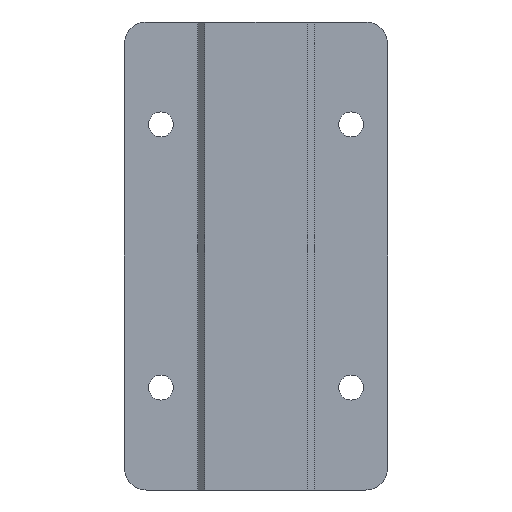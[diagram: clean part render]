
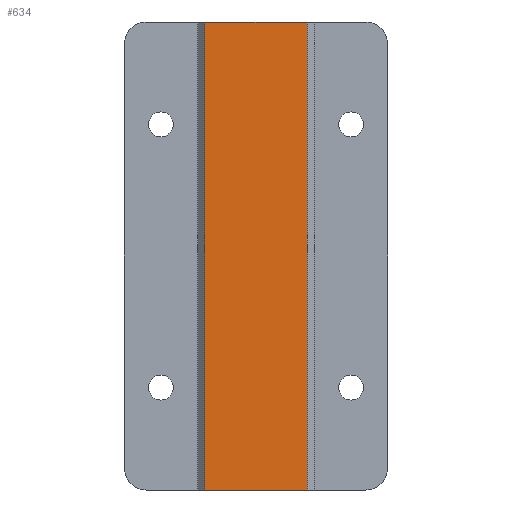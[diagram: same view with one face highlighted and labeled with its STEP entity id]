
A CAD part, front view. The second image highlights one B-rep face of the part: STEP entity #634.
In plain terms, the highlighted planar face has unit normal (0, -1, 0).
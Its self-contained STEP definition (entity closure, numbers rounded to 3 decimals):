
#45=LINE('',#1094,#95);
#58=LINE('',#1125,#108);
#59=LINE('',#1128,#109);
#60=LINE('',#1129,#110);
#95=VECTOR('',#870,10.);
#108=VECTOR('',#901,10.);
#109=VECTOR('',#904,10.);
#110=VECTOR('',#905,10.);
#178=FACE_OUTER_BOUND('',#218,.T.);
#218=EDGE_LOOP('',(#547,#548,#549,#550));
#304=VERTEX_POINT('',#1091);
#305=VERTEX_POINT('',#1093);
#314=VERTEX_POINT('',#1123);
#315=VERTEX_POINT('',#1127);
#382=EDGE_CURVE('',#304,#305,#45,.T.);
#398=EDGE_CURVE('',#314,#304,#58,.T.);
#399=EDGE_CURVE('',#315,#314,#59,.T.);
#400=EDGE_CURVE('',#305,#315,#60,.T.);
#547=ORIENTED_EDGE('',*,*,#398,.F.);
#548=ORIENTED_EDGE('',*,*,#399,.F.);
#549=ORIENTED_EDGE('',*,*,#400,.F.);
#550=ORIENTED_EDGE('',*,*,#382,.F.);
#598=PLANE('',#727);
#634=ADVANCED_FACE('',(#178),#598,.T.);
#727=AXIS2_PLACEMENT_3D('',#1126,#902,#903);
#870=DIRECTION('',(1.,0.,0.));
#901=DIRECTION('',(0.,0.,1.));
#902=DIRECTION('center_axis',(0.,-1.,0.));
#903=DIRECTION('ref_axis',(1.,0.,0.));
#904=DIRECTION('',(-1.,0.,0.));
#905=DIRECTION('',(0.,0.,-1.));
#1091=CARTESIAN_POINT('',(-7.,-10.5,32.));
#1093=CARTESIAN_POINT('',(7.,-10.5,32.));
#1094=CARTESIAN_POINT('',(-8.,-10.5,32.));
#1123=CARTESIAN_POINT('',(-7.,-10.5,-32.));
#1125=CARTESIAN_POINT('',(-7.,-10.5,0.));
#1126=CARTESIAN_POINT('Origin',(-8.,-10.5,0.));
#1127=CARTESIAN_POINT('',(7.,-10.5,-32.));
#1128=CARTESIAN_POINT('',(-8.,-10.5,-32.));
#1129=CARTESIAN_POINT('',(7.,-10.5,0.));
